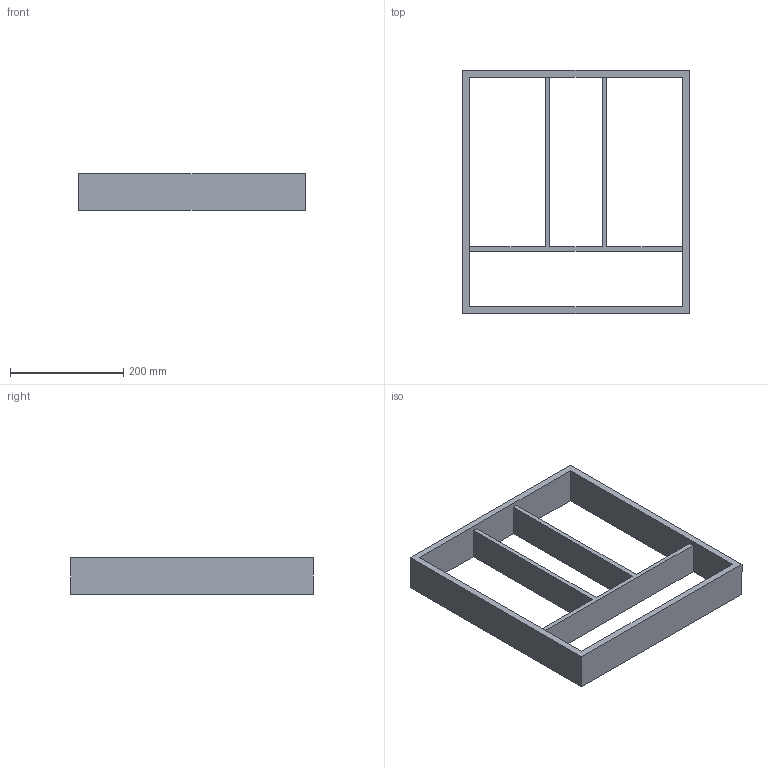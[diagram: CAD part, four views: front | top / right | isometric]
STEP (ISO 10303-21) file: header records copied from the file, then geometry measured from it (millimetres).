
FILE_DESCRIPTION (( 'STEP AP214' ), '1' );
FILE_NAME ('Vario Multi NL450_ZE400_16 mm_Buche.step', '2010-10-07T06:24:22', ( 'grass' ), ( '' ), 'SwSTEP 2.0', 'SolidWorks 2010', '' );
FILE_SCHEMA (( 'AUTOMOTIVE_DESIGN' ));
Length unit declared in the file: millimetre
Products named in the file (1): Vario Multi NL450_ZE400_16 mm_Buche
Bounding box: 400 x 429 x 65 mm (x, y, z)
Volume: 1699761.6 mm3; surface area: 371772 mm2
Topology: 1 solids, 1 shells, 19 faces, 60 edges, 40 vertices
Faces by surface type: plane 19
Entity records: 704 total; most frequent: ORIENTED_EDGE 120, CARTESIAN_POINT 120, DIRECTION 100, EDGE_CURVE 60, LINE 60, VECTOR 60, VERTEX_POINT 40, EDGE_LOOP 24
